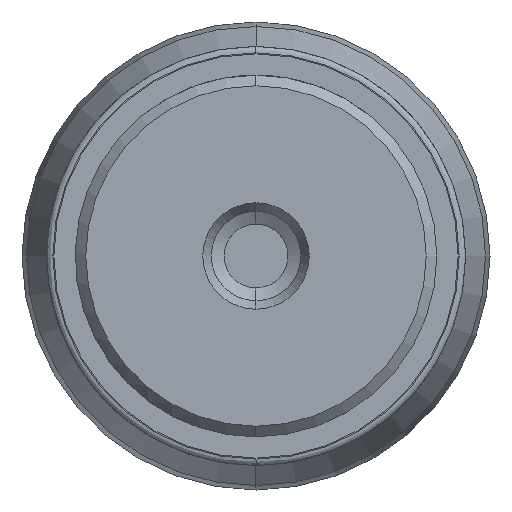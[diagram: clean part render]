
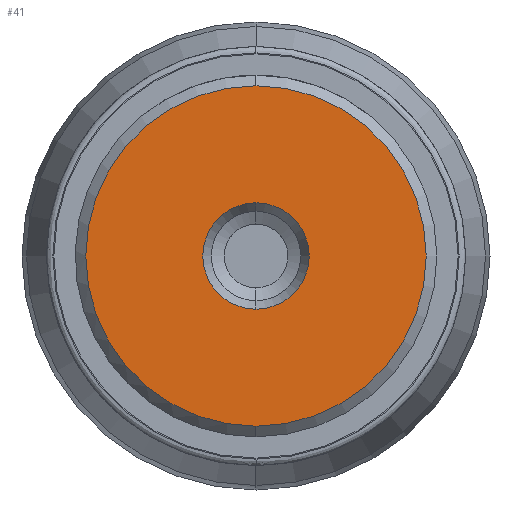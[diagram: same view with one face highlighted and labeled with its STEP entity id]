
A CAD part, left-side view. The second image highlights one B-rep face of the part: STEP entity #41.
In plain terms, the highlighted planar face has unit normal (-1, 0, 0).
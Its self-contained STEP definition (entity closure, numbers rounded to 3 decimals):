
#41=ADVANCED_FACE('',(#101,#102),#100,.F.);
#100=PLANE('',#606);
#101=FACE_OUTER_BOUND('',#607,.T.);
#102=FACE_BOUND('',#608,.T.);
#603=CARTESIAN_POINT('',(-23.,-16.628,10.4));
#604=DIRECTION('',(1.,0.,0.));
#605=DIRECTION('',(0.,0.,-1.));
#606=AXIS2_PLACEMENT_3D('',#603,#604,#605);
#607=EDGE_LOOP('',(#1128,#1129));
#608=EDGE_LOOP('',(#1130,#1131));
#1128=ORIENTED_EDGE('',*,*,#1346,.T.);
#1129=ORIENTED_EDGE('',*,*,#1347,.T.);
#1130=ORIENTED_EDGE('',*,*,#1348,.F.);
#1131=ORIENTED_EDGE('',*,*,#1349,.F.);
#1346=EDGE_CURVE('',#1467,#1468,#1469,.T.);
#1347=EDGE_CURVE('',#1468,#1467,#1475,.T.);
#1348=EDGE_CURVE('',#1481,#1482,#1483,.T.);
#1349=EDGE_CURVE('',#1482,#1481,#1489,.T.);
#1467=VERTEX_POINT('',#2184);
#1468=VERTEX_POINT('',#2185);
#1469=CIRCLE('',#2189,8.);
#1475=CIRCLE('',#2193,8.);
#1481=VERTEX_POINT('',#2194);
#1482=VERTEX_POINT('',#2195);
#1483=CIRCLE('',#2199,2.5);
#1489=CIRCLE('',#2203,2.5);
#2184=CARTESIAN_POINT('',(-23.,0.,8.));
#2185=CARTESIAN_POINT('',(-23.,0.,-8.));
#2186=CARTESIAN_POINT('',(-23.,0.,0.));
#2187=DIRECTION('',(-1.,0.,0.));
#2188=DIRECTION('',(0.,0.,1.));
#2189=AXIS2_PLACEMENT_3D('',#2186,#2187,#2188);
#2190=CARTESIAN_POINT('',(-23.,0.,0.));
#2191=DIRECTION('',(-1.,0.,0.));
#2192=DIRECTION('',(0.,0.,1.));
#2193=AXIS2_PLACEMENT_3D('',#2190,#2191,#2192);
#2194=CARTESIAN_POINT('',(-23.,0.,-2.5));
#2195=CARTESIAN_POINT('',(-23.,0.,2.5));
#2196=CARTESIAN_POINT('',(-23.,0.,0.));
#2197=DIRECTION('',(-1.,0.,0.));
#2198=DIRECTION('',(0.,0.,1.));
#2199=AXIS2_PLACEMENT_3D('',#2196,#2197,#2198);
#2200=CARTESIAN_POINT('',(-23.,0.,0.));
#2201=DIRECTION('',(-1.,0.,0.));
#2202=DIRECTION('',(0.,0.,1.));
#2203=AXIS2_PLACEMENT_3D('',#2200,#2201,#2202);
